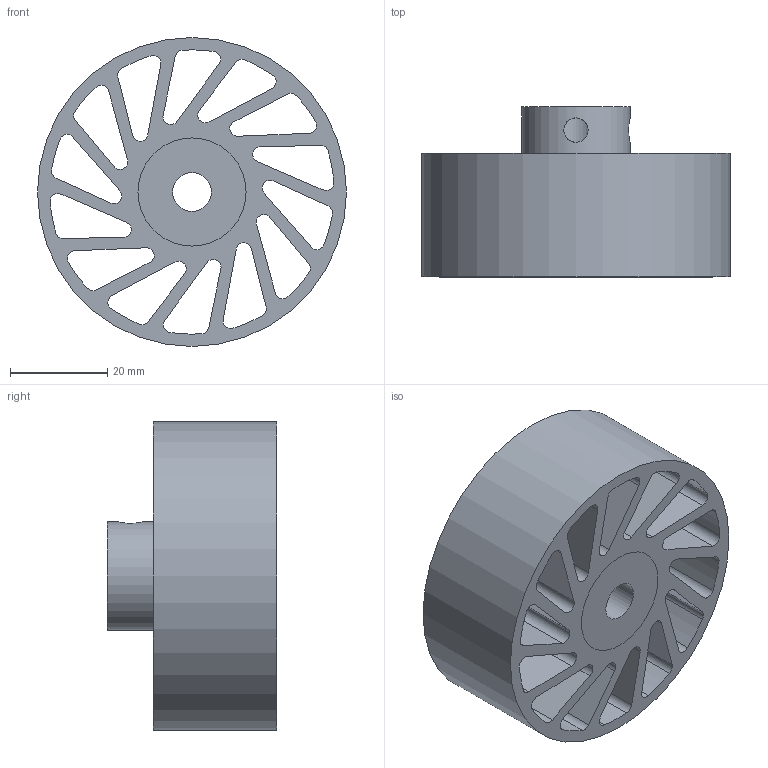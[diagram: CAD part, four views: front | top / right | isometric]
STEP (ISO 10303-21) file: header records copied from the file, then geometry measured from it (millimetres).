
FILE_DESCRIPTION(/* description */ (''),/* implementation_level */ '2;1');
FILE_NAME(/* name */ 'NCWM-300-XXX-YYY.stp',/* time_stamp */ '2023-02-02T16:02:47-06:00',/* author */ ('AG'),/* organization */ ('Meridian Laboratory'),/* preprocessor_version */ 'ST-DEVELOPER v18.1',/* originating_system */ 'Autodesk Inventor 2022',/* authorisation */ '');
FILE_SCHEMA (('AUTOMOTIVE_DESIGN { 1 0 10303 214 3 1 1 }'));
Length unit declared in the file: millimetre
Products named in the file (1): NCW-300
Bounding box: 63.5 x 34.92 x 63.5 mm (x, y, z)
Volume: 46748.9 mm3; surface area: 29136.4 mm2
Topology: 2 solids, 2 shells, 94 faces, 276 edges, 186 vertices
Faces by surface type: cylinder 62, plane 32
Full cylindrical faces by diameter (mm): 5 x2, 8.025 x1, 22.225 x2, 63.5 x1
Entity records: 3536 total; most frequent: CARTESIAN_POINT 697, DIRECTION 576, ORIENTED_EDGE 552, EDGE_CURVE 276, AXIS2_PLACEMENT_3D 215, VERTEX_POINT 186, LINE 146, VECTOR 146
